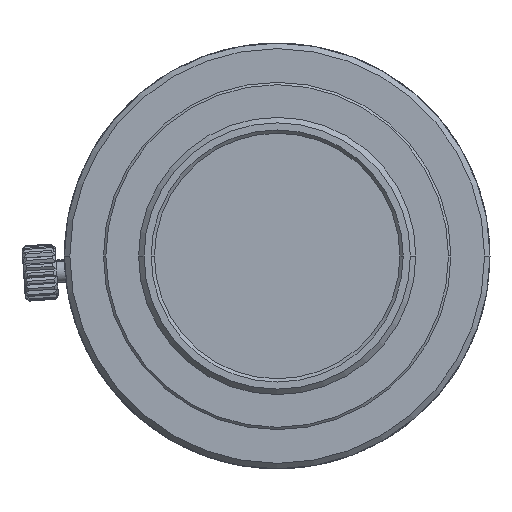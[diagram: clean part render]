
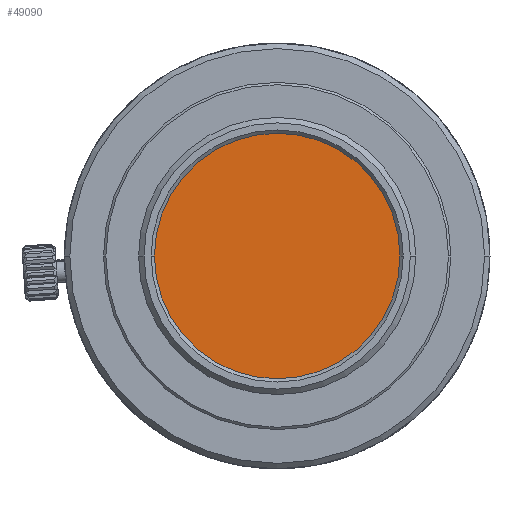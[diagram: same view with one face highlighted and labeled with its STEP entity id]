
A CAD part, left-side view. The second image highlights one B-rep face of the part: STEP entity #49090.
In plain terms, the highlighted planar face has unit normal (-1, 0, 0) as drawn and (0, 0, -1) by its records, which use the part's own axes.
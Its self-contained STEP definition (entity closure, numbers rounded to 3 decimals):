
#48760=CARTESIAN_POINT('',(0.,-11.25,10.7));
#48770=VERTEX_POINT('',#48760);
#48850=CARTESIAN_POINT('',(0.,11.25,10.7));
#48860=VERTEX_POINT('',#48850);
#48890=CARTESIAN_POINT('',(0.,0.,10.7));
#48900=DIRECTION('',(0.,0.,1.));
#48910=DIRECTION('',(0.,1.,0.));
#48920=AXIS2_PLACEMENT_3D('',#48890,#48900,#48910);
#48930=CIRCLE('',#48920,11.25);
#48940=EDGE_CURVE('',#48770,#48860,#48930,.T.);
#48990=CARTESIAN_POINT('',(0.,5.625,10.7));
#49000=DIRECTION('',(-0.,0.,1.));
#49010=DIRECTION('',(0.,-1.,0.));
#49020=AXIS2_PLACEMENT_3D('',#48990,#49000,#49010);
#49030=PLANE('',#49020);
#49040=EDGE_CURVE('',#48860,#48770,#48930,.T.);
#49050=ORIENTED_EDGE('',*,*,#49040,.F.);
#49060=ORIENTED_EDGE('',*,*,#48940,.F.);
#49070=EDGE_LOOP('',(#49060,#49050));
#49080=FACE_OUTER_BOUND('',#49070,.T.);
#49090=ADVANCED_FACE('',(#49080),#49030,.F.);
